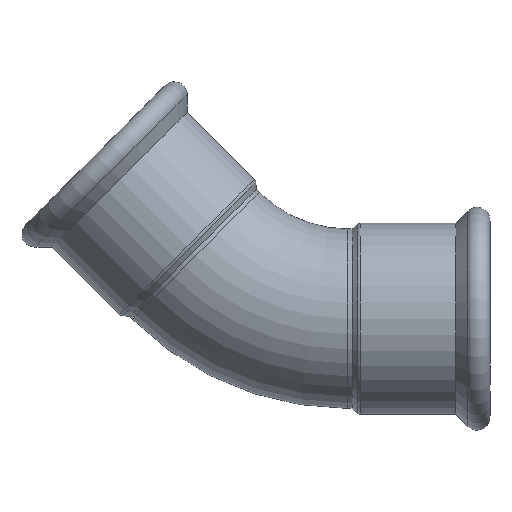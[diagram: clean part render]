
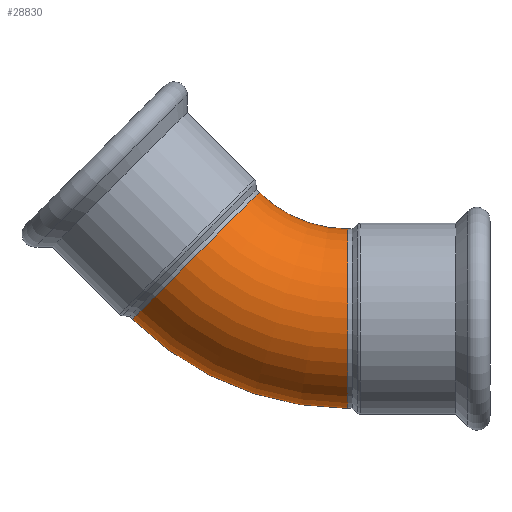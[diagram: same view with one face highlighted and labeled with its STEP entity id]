
A CAD part, top view. The second image highlights one B-rep face of the part: STEP entity #28830.
In plain terms, the highlighted toroidal (fillet/blend) face has major radius 91 mm and minor radius 38.05 mm.
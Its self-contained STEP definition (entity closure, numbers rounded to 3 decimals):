
#13650=CARTESIAN_POINT('',(-34.748,-53.559,
0.));
#13660=VERTEX_POINT('',#13650);
#13690=CARTESIAN_POINT('',(-61.653,-26.653,0.));
#13700=DIRECTION('',(0.707,0.707,0.));
#13710=DIRECTION('',(-0.707,0.707,0.));
#13720=AXIS2_PLACEMENT_3D('',#13690,#13700,#13710);
#13730=CIRCLE('',#13720,38.05);
#13740=CARTESIAN_POINT('',(-88.559,0.252,0.));
#13750=VERTEX_POINT('',#13740);
#15040=CARTESIAN_POINT('',(2.693,-91.,0.));
#15050=DIRECTION('',(0.,0.,1.));
#15060=DIRECTION('',(0.,1.,0.));
#15070=AXIS2_PLACEMENT_3D('',#15040,#15050,#15060);
#15080=TOROIDAL_SURFACE('',#15070,91.,38.05);
#15090=CARTESIAN_POINT('',(2.693,-91.,0.))
;
#15100=DIRECTION('',(0.,0.,1.));
#15110=DIRECTION('',(0.,1.,0.));
#15120=AXIS2_PLACEMENT_3D('',#15090,#15100,#15110);
#15130=CIRCLE('',#15120,52.95);
#15140=CARTESIAN_POINT('',(2.693,-38.05,0.
));
#15150=VERTEX_POINT('',#15140);
#15160=EDGE_CURVE('',#15150,#13660,#15130,.T.);
#15230=CARTESIAN_POINT('',(2.693,38.05,0.)
);
#15240=VERTEX_POINT('',#15230);
#15270=CARTESIAN_POINT('',(2.693,-91.,0.))
;
#15280=DIRECTION('',(0.,0.,1.));
#15290=DIRECTION('',(0.,1.,0.));
#15300=AXIS2_PLACEMENT_3D('',#15270,#15280,#15290);
#15310=CIRCLE('',#15300,129.05);
#15320=EDGE_CURVE('',#15240,#13750,#15310,.T.);
#28510=EDGE_CURVE('',#13750,#13660,#13730,.T.);
#28710=ORIENTED_EDGE('',*,*,#28510,.T.);
#28720=ORIENTED_EDGE('',*,*,#15320,.T.);
#28730=CARTESIAN_POINT('',(2.693,0.,0.));
#28740=DIRECTION('',(-1.,0.,0.));
#28750=DIRECTION('',(0.,1.,0.));
#28760=AXIS2_PLACEMENT_3D('',#28730,#28740,#28750);
#28770=CIRCLE('',#28760,38.05);
#28780=EDGE_CURVE('',#15150,#15240,#28770,.T.);
#28790=ORIENTED_EDGE('',*,*,#28780,.T.);
#28800=ORIENTED_EDGE('',*,*,#15160,.F.);
#28810=EDGE_LOOP('',(#28800,#28790,#28720,#28710));
#28820=FACE_OUTER_BOUND('',#28810,.T.);
#28830=ADVANCED_FACE('',(#28820),#15080,.T.);
